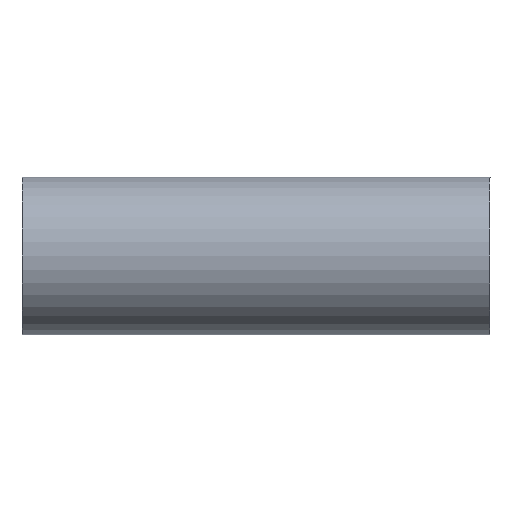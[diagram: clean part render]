
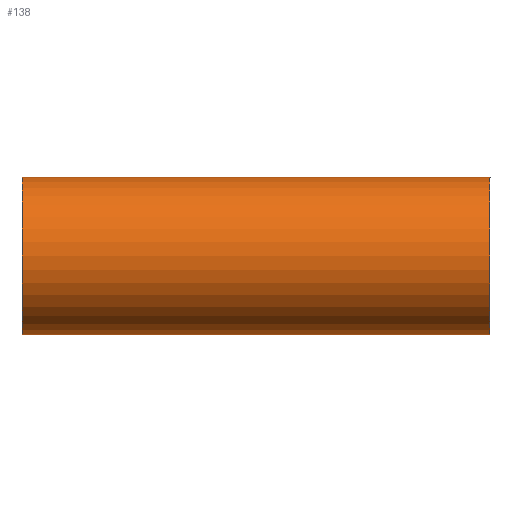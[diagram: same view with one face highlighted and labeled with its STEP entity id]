
A CAD part, front view. The second image highlights one B-rep face of the part: STEP entity #138.
In plain terms, the highlighted cylindrical face has radius 16.85 mm (diameter 33.7 mm), a full revolution.
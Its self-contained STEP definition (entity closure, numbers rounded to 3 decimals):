
#64=ORIENTED_EDGE('',*,*,#80,.F.);
#65=ORIENTED_EDGE('',*,*,#81,.T.);
#72=CIRCLE('',#129,16.85);
#73=CIRCLE('',#130,16.85);
#76=VERTEX_POINT('',#117);
#77=VERTEX_POINT('',#119);
#80=EDGE_CURVE('',#76,#76,#72,.T.);
#81=EDGE_CURVE('',#77,#77,#73,.T.);
#84=EDGE_LOOP('',(#64));
#85=EDGE_LOOP('',(#65));
#92=FACE_BOUND('',#84,.T.);
#93=FACE_BOUND('',#85,.T.);
#100=DIRECTION('',(-1.,0.,0.));
#101=DIRECTION('',(0.,0.,1.));
#102=DIRECTION('',(-1.,0.,0.));
#103=DIRECTION('',(0.,0.,16.85));
#104=DIRECTION('',(-1.,0.,0.));
#105=DIRECTION('',(0.,0.,16.85));
#116=CARTESIAN_POINT('',(100.,0.,0.));
#117=CARTESIAN_POINT('',(0.,0.,16.85));
#118=CARTESIAN_POINT('',(0.,0.,0.));
#119=CARTESIAN_POINT('',(100.,0.,16.85));
#120=CARTESIAN_POINT('',(100.,0.,0.));
#128=AXIS2_PLACEMENT_3D('',#116,#100,#101);
#129=AXIS2_PLACEMENT_3D('',#118,#102,#103);
#130=AXIS2_PLACEMENT_3D('',#120,#104,#105);
#136=CYLINDRICAL_SURFACE('',#128,16.85);
#138=ADVANCED_FACE('',(#92,#93),#136,.T.);
